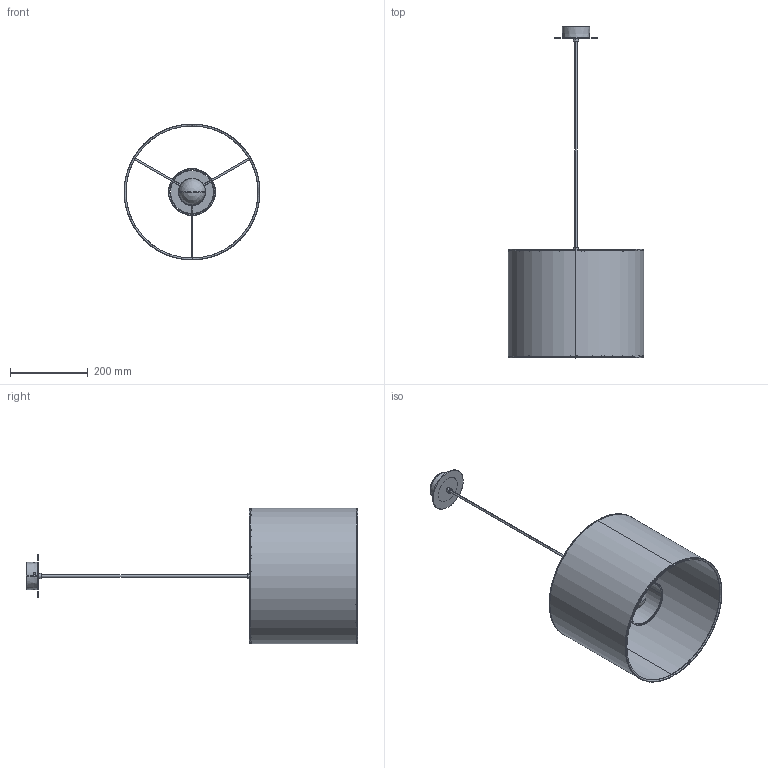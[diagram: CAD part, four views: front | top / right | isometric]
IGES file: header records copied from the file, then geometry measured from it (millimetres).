
Start section: SolidWorks IGES file using analytic representation for surfaces
Global section: file name: C:\SANTACOLE_PDM\Proyectos Catálogo\PROD-P13-045 -- MOARÉ\6_Técnico comercial\3D\Moare Liviana S.IGS; native system: SolidWorks 2019; preprocessor: SolidWorks 2019; author: louis.ferraz; date: 200407.124940; units: millimetre
Bounding box: 350.04 x 855.11 x 350 mm (x, y, z)
Surface area: 900980.6 mm2 (no closed solid volume)
Topology: 0 solids, 0 shells, 753 faces, 9033 edges, 9032 vertices
Faces by surface type: bspline 456, revolution 297
